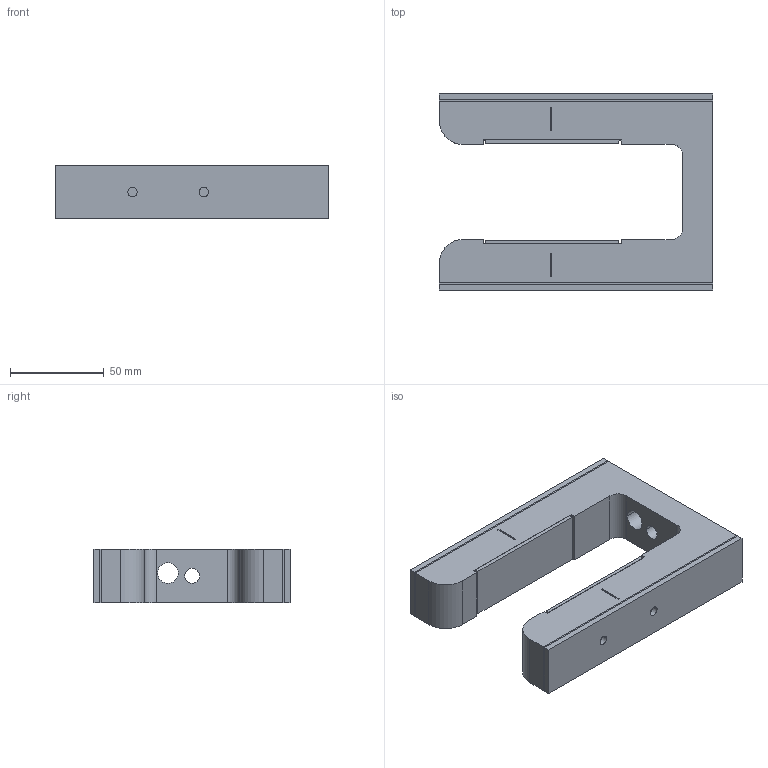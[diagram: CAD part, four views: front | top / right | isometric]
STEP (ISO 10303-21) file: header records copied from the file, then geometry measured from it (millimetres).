
FILE_DESCRIPTION((''),'2;1');
FILE_NAME('Model_SE-23_2X2.stp','2008-01-11T08:49:15',(''),(''),'Mechanical Desktop 2008','Mechanical Desktop 2008',', , ');
FILE_SCHEMA(('AUTOMOTIVE_DESIGN { 1 2 10303 214 1 1 1 1 }'));
Length unit declared in the file: inch
Products named in the file (1): MODEL_SE-23_2X2.75_84440-D
Bounding box: 146.05 x 104.76 x 28.57 mm (x, y, z)
Volume: 240904.1 mm3; surface area: 82057.2 mm2
Topology: 9 solids, 9 shells, 118 faces, 282 edges, 188 vertices
Faces by surface type: plane 86, cylinder 32
Entity records: 3499 total; most frequent: CARTESIAN_POINT 590, DIRECTION 586, ORIENTED_EDGE 564, EDGE_CURVE 282, VECTOR 218, LINE 218, VERTEX_POINT 188, AXIS2_PLACEMENT_3D 184
